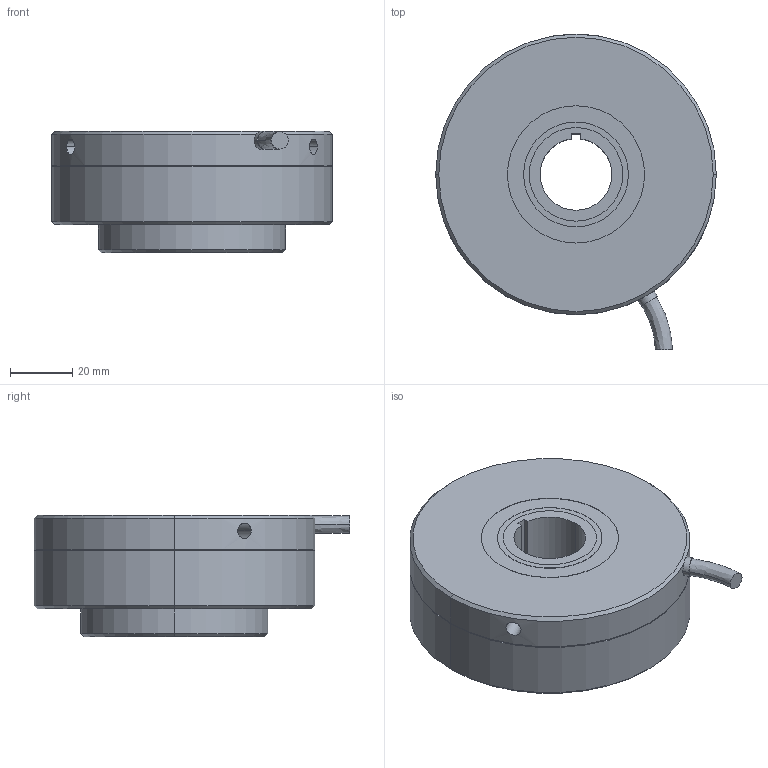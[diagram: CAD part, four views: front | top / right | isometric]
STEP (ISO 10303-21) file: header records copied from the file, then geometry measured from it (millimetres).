
FILE_DESCRIPTION (( 'STEP AP214' ), '1' );
FILE_NAME ('O_Assem1.STEP', '2024-06-18T01:33:20', ( '' ), ( '' ), 'SwSTEP 2.0', 'SolidWorks 2023', '' );
FILE_SCHEMA (( 'AUTOMOTIVE_DESIGN' ));
Length unit declared in the file: millimetre
Products named in the file (3): O_Part2; O_Assem1; O_Part1
Assembly tree (2 placements, depth 2):
  O_Assem1
    O_Part1
    O_Part2
Bounding box: 90 x 101.28 x 39.07 mm (x, y, z)
Volume: 199248.3 mm3; surface area: 32974.9 mm2
Topology: 3 solids, 3 shells, 59 faces, 120 edges, 78 vertices
Faces by surface type: cylinder 31, plane 20, cone 6, bspline 2
Entity records: 1899 total; most frequent: CARTESIAN_POINT 508, DIRECTION 302, ORIENTED_EDGE 240, AXIS2_PLACEMENT_3D 128, EDGE_CURVE 120, VERTEX_POINT 78, EDGE_LOOP 74, CIRCLE 66
